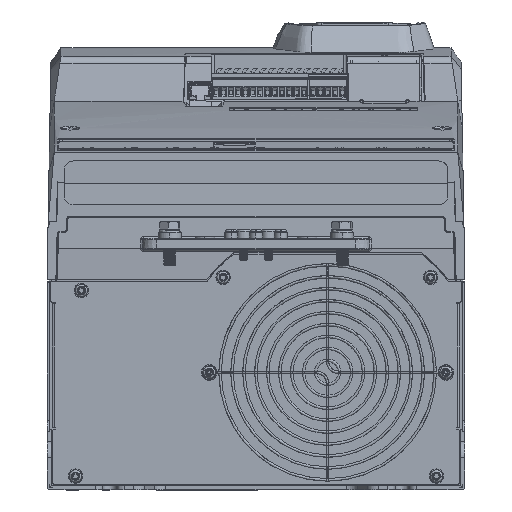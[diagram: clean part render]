
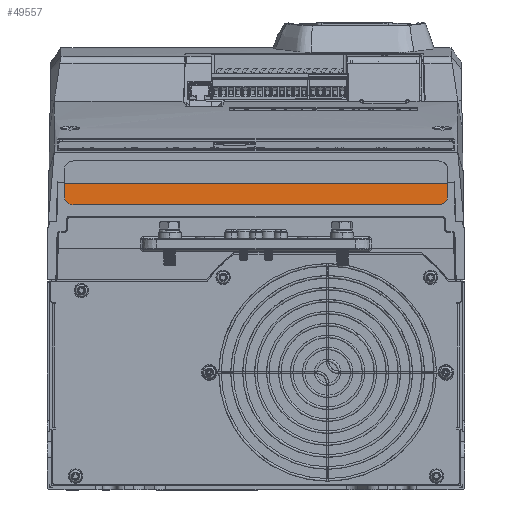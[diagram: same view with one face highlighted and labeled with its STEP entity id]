
A CAD part, front view. The second image highlights one B-rep face of the part: STEP entity #49557.
In plain terms, the highlighted planar face has unit normal (0, -0.999, 0.046).
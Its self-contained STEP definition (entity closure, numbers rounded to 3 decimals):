
#1890 = ORIENTED_EDGE ( 'NONE', *, *, #144037, .T. ) ;
#5710 = CARTESIAN_POINT ( 'NONE',  ( -131.189, -269.657, 199.6 ) ) ;
#17170 = CARTESIAN_POINT ( 'NONE',  ( 125.19, -269.928, 193.709 ) ) ;
#21202 = LINE ( 'NONE', #88388, #203781 ) ;
#22475 = CARTESIAN_POINT ( 'NONE',  ( 131.128, -269.817, 196.137 ) ) ;
#25096 = CARTESIAN_POINT ( 'NONE',  ( -131.344, -269.248, 208.5 ) ) ;
#27911 = VERTEX_POINT ( 'NONE', #128779 ) ;
#30985 = EDGE_CURVE ( 'NONE', #27911, #214008, #286316, .T. ) ;
#46430 = CARTESIAN_POINT ( 'NONE',  ( 131.189, -269.657, 199.6 ) ) ;
#49557 = ADVANCED_FACE ( 'NONE', ( #75906 ), #293181, .T. ) ;
#49658 = ORIENTED_EDGE ( 'NONE', *, *, #293625, .F. ) ;
#50087 = DIRECTION ( 'NONE',  ( -1., 0., 0. ) ) ;
#54280 = VECTOR ( 'NONE', #223176, 1000. ) ;
#56334 = ORIENTED_EDGE ( 'NONE', *, *, #30985, .F. ) ;
#68248 = VERTEX_POINT ( 'NONE', #17170 ) ;
#70728 = DIRECTION ( 'NONE',  ( -1., 0., 0. ) ) ;
#74345 = DIRECTION ( 'NONE',  ( 0., -0.999, 0.046 ) ) ;
#74388 = CARTESIAN_POINT ( 'NONE',  ( 131.189, -269.657, 199.6 ) ) ;
#75906 = FACE_OUTER_BOUND ( 'NONE', #136504, .T. ) ;
#77724 = CARTESIAN_POINT ( 'NONE',  ( -131.189, -269.657, 199.6 ) ) ;
#88388 = CARTESIAN_POINT ( 'NONE',  ( -131.086, -269.928, 193.709 ) ) ;
#90730 = VECTOR ( 'NONE', #50087, 1000. ) ;
#99500 = VERTEX_POINT ( 'NONE', #25096 ) ;
#101610 = CARTESIAN_POINT ( 'NONE',  ( -125.19, -269.928, 193.709 ) ) ;
#106634 = ORIENTED_EDGE ( 'NONE', *, *, #302923, .F. ) ;
#115157 = CARTESIAN_POINT ( 'NONE',  ( 128.656, -269.928, 193.709 ) ) ;
#122260 = CARTESIAN_POINT ( 'NONE',  ( -137., -272.197, 144.38 ) ) ;
#128557 = DIRECTION ( 'NONE',  ( -1., 0., 0. ) ) ;
#128779 = CARTESIAN_POINT ( 'NONE',  ( -125.19, -269.928, 193.709 ) ) ;
#136504 = EDGE_LOOP ( 'NONE', ( #291124, #1890, #249089, #56334, #49658, #106634 ) ) ;
#144037 = EDGE_CURVE ( 'NONE', #304827, #99500, #244934, .T. ) ;
#147525 = CARTESIAN_POINT ( 'NONE',  ( -137., -269.248, 208.5 ) ) ;
#151063 = CARTESIAN_POINT ( 'NONE',  ( 131.344, -269.248, 208.5 ) ) ;
#183930 = LINE ( 'NONE', #211017, #242583 ) ;
#199029 = CARTESIAN_POINT ( 'NONE',  ( -128.656, -269.928, 193.709 ) ) ;
#203781 = VECTOR ( 'NONE', #70728, 1000. ) ;
#211017 = CARTESIAN_POINT ( 'NONE',  ( -131.656, -268.427, 226.343 ) ) ;
#212601 = CARTESIAN_POINT ( 'NONE',  ( 125.19, -269.928, 193.709 ) ) ;
#214008 = VERTEX_POINT ( 'NONE', #77724 ) ;
#220852 =( BOUNDED_CURVE ( )  B_SPLINE_CURVE ( 3, ( #46430, #22475, #115157, #212601 ),
 .UNSPECIFIED., .F., .F. ) 
 B_SPLINE_CURVE_WITH_KNOTS ( ( 4, 4 ),
 ( 1.588, 3.142 ),
 .UNSPECIFIED. ) 
 CURVE ( )  GEOMETRIC_REPRESENTATION_ITEM ( )  RATIONAL_B_SPLINE_CURVE ( ( 1., 0.809, 0.809, 1. ) ) 
 REPRESENTATION_ITEM ( '' )  );
#223176 = DIRECTION ( 'NONE',  ( -0.017, -0.046, -0.999 ) ) ;
#226313 = CARTESIAN_POINT ( 'NONE',  ( 131.22, -269.576, 201.38 ) ) ;
#226913 = AXIS2_PLACEMENT_3D ( 'NONE', #122260, #74345, #128557 ) ;
#242583 = VECTOR ( 'NONE', #282901, 1000. ) ;
#244934 = LINE ( 'NONE', #147525, #90730 ) ;
#249089 = ORIENTED_EDGE ( 'NONE', *, *, #315742, .F. ) ;
#268958 = VERTEX_POINT ( 'NONE', #74388 ) ;
#281745 = EDGE_CURVE ( 'NONE', #304827, #268958, #298203, .T. ) ;
#282901 = DIRECTION ( 'NONE',  ( -0.017, 0.046, 0.999 ) ) ;
#286316 =( BOUNDED_CURVE ( )  B_SPLINE_CURVE ( 3, ( #101610, #199029, #296465, #5710 ),
 .UNSPECIFIED., .F., .F. ) 
 B_SPLINE_CURVE_WITH_KNOTS ( ( 4, 4 ),
 ( 3.142, 4.695 ),
 .UNSPECIFIED. ) 
 CURVE ( )  GEOMETRIC_REPRESENTATION_ITEM ( )  RATIONAL_B_SPLINE_CURVE ( ( 1., 0.809, 0.809, 1. ) ) 
 REPRESENTATION_ITEM ( '' )  );
#291124 = ORIENTED_EDGE ( 'NONE', *, *, #281745, .F. ) ;
#293181 = PLANE ( 'NONE',  #226913 ) ;
#293625 = EDGE_CURVE ( 'NONE', #68248, #27911, #21202, .T. ) ;
#296465 = CARTESIAN_POINT ( 'NONE',  ( -131.128, -269.817, 196.137 ) ) ;
#298203 = LINE ( 'NONE', #226313, #54280 ) ;
#302923 = EDGE_CURVE ( 'NONE', #268958, #68248, #220852, .T. ) ;
#304827 = VERTEX_POINT ( 'NONE', #151063 ) ;
#315742 = EDGE_CURVE ( 'NONE', #214008, #99500, #183930, .T. ) ;
